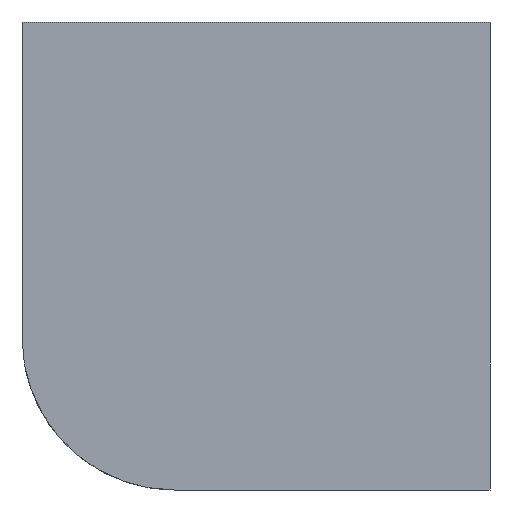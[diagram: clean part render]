
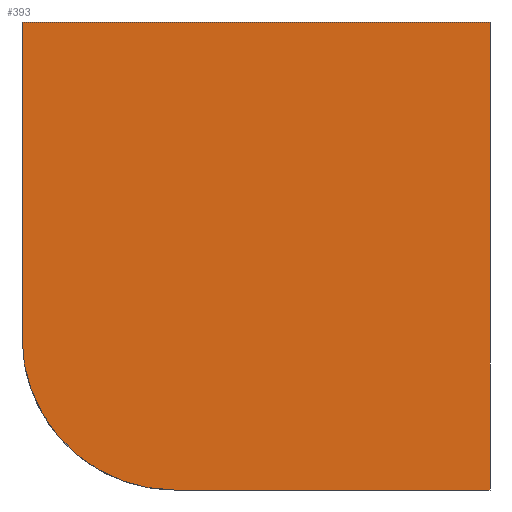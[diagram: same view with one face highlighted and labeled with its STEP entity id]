
A CAD part, left-side view. The second image highlights one B-rep face of the part: STEP entity #393.
In plain terms, the highlighted planar face has unit normal (-1, 0, 0).
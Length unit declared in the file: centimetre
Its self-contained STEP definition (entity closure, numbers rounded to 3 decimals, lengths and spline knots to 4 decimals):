
#16 = CARTESIAN_POINT ( 'NONE',  ( 0., 1000., 1000. ) ) ;
#17 = CARTESIAN_POINT ( 'NONE',  ( 0., 1000., 0. ) ) ;
#37 = CARTESIAN_POINT ( 'NONE',  ( 0., 1000., 1000. ) ) ;
#77 = DIRECTION ( 'NONE',  ( 0., -1., 0. ) ) ;
#87 = VERTEX_POINT ( 'NONE', #156 ) ;
#89 = LINE ( 'NONE', #17, #716 ) ;
#93 = EDGE_CURVE ( 'NONE', #139, #87, #421, .T. ) ;
#96 = ORIENTED_EDGE ( 'NONE', *, *, #587, .T. ) ;
#139 = VERTEX_POINT ( 'NONE', #614 ) ;
#155 = PLANE ( 'NONE',  #846 ) ;
#156 = CARTESIAN_POINT ( 'NONE',  ( 0., 0., 1000. ) ) ;
#160 = LINE ( 'NONE', #37, #324 ) ;
#172 = VECTOR ( 'NONE', #515, 100. ) ;
#174 = DIRECTION ( 'NONE',  ( 1., 0., 0. ) ) ;
#213 = CIRCLE ( 'NONE', #704, 325.7612 ) ;
#240 = CARTESIAN_POINT ( 'NONE',  ( 0., 674.2388, 0. ) ) ;
#242 = CARTESIAN_POINT ( 'NONE',  ( 0., 0., 1000. ) ) ;
#258 = CARTESIAN_POINT ( 'NONE',  ( 0., 674.2388, 325.7612 ) ) ;
#265 = VERTEX_POINT ( 'NONE', #273 ) ;
#273 = CARTESIAN_POINT ( 'NONE',  ( 0., 0., 0. ) ) ;
#279 = DIRECTION ( 'NONE',  ( 0., -1., 0. ) ) ;
#308 = ORIENTED_EDGE ( 'NONE', *, *, #93, .F. ) ;
#315 = DIRECTION ( 'NONE',  ( 0., 0., -1. ) ) ;
#324 = VECTOR ( 'NONE', #635, 100. ) ;
#376 = CARTESIAN_POINT ( 'NONE',  ( 0., 1000., 325.7612 ) ) ;
#393 = ADVANCED_FACE ( 'NONE', ( #503 ), #155, .F. ) ;
#402 = DIRECTION ( 'NONE',  ( -1., 0., 0. ) ) ;
#421 = LINE ( 'NONE', #16, #432 ) ;
#427 = EDGE_CURVE ( 'NONE', #563, #265, #89, .T. ) ;
#432 = VECTOR ( 'NONE', #279, 100. ) ;
#503 = FACE_OUTER_BOUND ( 'NONE', #665, .T. ) ;
#515 = DIRECTION ( 'NONE',  ( 0., 0., -1. ) ) ;
#557 = CARTESIAN_POINT ( 'NONE',  ( 0., 1000., 1000. ) ) ;
#563 = VERTEX_POINT ( 'NONE', #240 ) ;
#587 = EDGE_CURVE ( 'NONE', #828, #563, #213, .T. ) ;
#614 = CARTESIAN_POINT ( 'NONE',  ( 0., 1000., 1000. ) ) ;
#635 = DIRECTION ( 'NONE',  ( 0., 0., -1. ) ) ;
#642 = ORIENTED_EDGE ( 'NONE', *, *, #666, .T. ) ;
#665 = EDGE_LOOP ( 'NONE', ( #642, #96, #838, #708, #308 ) ) ;
#666 = EDGE_CURVE ( 'NONE', #139, #828, #160, .T. ) ;
#704 = AXIS2_PLACEMENT_3D ( 'NONE', #258, #402, #315 ) ;
#708 = ORIENTED_EDGE ( 'NONE', *, *, #843, .F. ) ;
#716 = VECTOR ( 'NONE', #77, 100. ) ;
#825 = DIRECTION ( 'NONE',  ( 0., 0., -1. ) ) ;
#828 = VERTEX_POINT ( 'NONE', #376 ) ;
#838 = ORIENTED_EDGE ( 'NONE', *, *, #427, .T. ) ;
#843 = EDGE_CURVE ( 'NONE', #87, #265, #858, .T. ) ;
#846 = AXIS2_PLACEMENT_3D ( 'NONE', #557, #174, #825 ) ;
#858 = LINE ( 'NONE', #242, #172 ) ;
